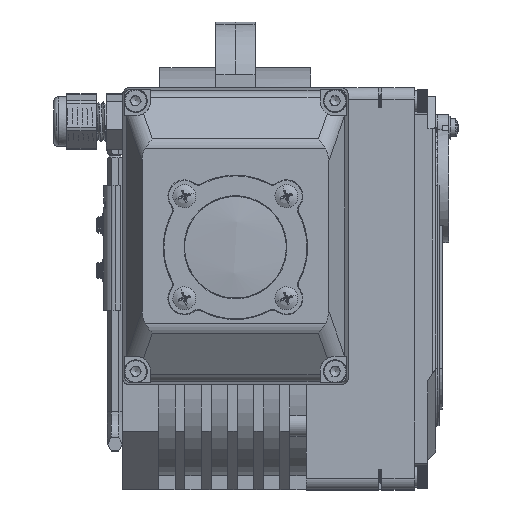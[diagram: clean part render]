
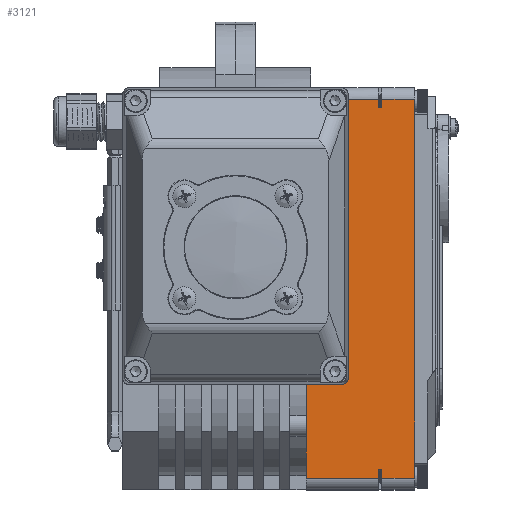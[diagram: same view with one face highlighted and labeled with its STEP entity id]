
A CAD part, top view. The second image highlights one B-rep face of the part: STEP entity #3121.
In plain terms, the highlighted planar face has unit normal (0, 0, 1).
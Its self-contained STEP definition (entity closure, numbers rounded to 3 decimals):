
#3121=ADVANCED_FACE('',(#55410),#55412,.F.);
#55410=FACE_BOUND('',#55411,.T.);
#55411=EDGE_LOOP('',(#94776,#94777,#94778,#94779,#94780,#94781,#94782,#94783,#94784,
#94785,#94786,#94787,#94788,#94789,#94790));
#55412=PLANE('',#55413);
#55413=AXIS2_PLACEMENT_3D('',#55414,#55415,#55416);
#55414=CARTESIAN_POINT('',(4309.12,-1625.512,0.877));
#55415=DIRECTION('',(0.,0.,-1.));
#55416=DIRECTION('',(0.,1.,0.));
#94776=ORIENTED_EDGE('',*,*,#119031,.F.);
#94777=ORIENTED_EDGE('',*,*,#119032,.F.);
#94778=ORIENTED_EDGE('',*,*,#119021,.F.);
#94779=ORIENTED_EDGE('',*,*,#118907,.F.);
#94780=ORIENTED_EDGE('',*,*,#119026,.T.);
#94781=ORIENTED_EDGE('',*,*,#119033,.F.);
#94782=ORIENTED_EDGE('',*,*,#119034,.T.);
#94783=ORIENTED_EDGE('',*,*,#119035,.F.);
#94784=ORIENTED_EDGE('',*,*,#119036,.T.);
#94785=ORIENTED_EDGE('',*,*,#119037,.F.);
#94786=ORIENTED_EDGE('',*,*,#119038,.T.);
#94787=ORIENTED_EDGE('',*,*,#119039,.F.);
#94788=ORIENTED_EDGE('',*,*,#119040,.F.);
#94789=ORIENTED_EDGE('',*,*,#119041,.T.);
#94790=ORIENTED_EDGE('',*,*,#119042,.F.);
#118907=EDGE_CURVE('',#131666,#131668,#131669,.T.);
#119021=EDGE_CURVE('',#131668,#131889,#131892,.T.);
#119026=EDGE_CURVE('',#131666,#131898,#131901,.T.);
#119031=EDGE_CURVE('',#131908,#131909,#131910,.T.);
#119032=EDGE_CURVE('',#131889,#131908,#131911,.T.);
#119033=EDGE_CURVE('',#131912,#131898,#131913,.T.);
#119034=EDGE_CURVE('',#131912,#131914,#131915,.T.);
#119035=EDGE_CURVE('',#131916,#131914,#131917,.T.);
#119036=EDGE_CURVE('',#131916,#131918,#131919,.T.);
#119037=EDGE_CURVE('',#131920,#131918,#131921,.T.);
#119038=EDGE_CURVE('',#131920,#131922,#131923,.T.);
#119039=EDGE_CURVE('',#131924,#131922,#131925,.T.);
#119040=EDGE_CURVE('',#131926,#131924,#131927,.T.);
#119041=EDGE_CURVE('',#131926,#131928,#131929,.T.);
#119042=EDGE_CURVE('',#131909,#131928,#131930,.T.);
#131666=VERTEX_POINT('',#164202);
#131668=VERTEX_POINT('',#164207);
#131669=LINE('',#164208,#164209);
#131889=VERTEX_POINT('',#164713);
#131892=LINE('',#164721,#164722);
#131898=VERTEX_POINT('',#164736);
#131901=LINE('',#164742,#164743);
#131908=VERTEX_POINT('',#164760);
#131909=VERTEX_POINT('',#164761);
#131910=LINE('',#164762,#164763);
#131911=LINE('',#164765,#164766);
#131912=VERTEX_POINT('',#164768);
#131913=LINE('',#164769,#164770);
#131914=VERTEX_POINT('',#164772);
#131915=LINE('',#164773,#164774);
#131916=VERTEX_POINT('',#164776);
#131917=LINE('',#164777,#164778);
#131918=VERTEX_POINT('',#164780);
#131919=LINE('',#164781,#164782);
#131920=VERTEX_POINT('',#164784);
#131921=LINE('',#164785,#164786);
#131922=VERTEX_POINT('',#164788);
#131923=CIRCLE('',#164789,2.);
#131924=VERTEX_POINT('',#164793);
#131925=LINE('',#164794,#164795);
#131926=VERTEX_POINT('',#164797);
#131927=LINE('',#164798,#164799);
#131928=VERTEX_POINT('',#164801);
#131929=LINE('',#164802,#164803);
#131930=LINE('',#164805,#164806);
#164202=CARTESIAN_POINT('',(4309.12,-1510.012,0.877));
#164207=CARTESIAN_POINT('',(4309.12,-1625.512,0.877));
#164208=CARTESIAN_POINT('',(4309.12,-1510.012,0.877));
#164209=VECTOR('',#164210,1.);
#164210=DIRECTION('',(0.,-1.,0.));
#164713=CARTESIAN_POINT('',(4299.12,-1625.512,0.877));
#164721=CARTESIAN_POINT('',(4309.12,-1625.512,0.877));
#164722=VECTOR('',#164723,1.);
#164723=DIRECTION('',(-1.,0.,0.));
#164736=CARTESIAN_POINT('',(4299.12,-1510.012,0.877));
#164742=CARTESIAN_POINT('',(4309.12,-1510.012,0.877));
#164743=VECTOR('',#164744,1.);
#164744=DIRECTION('',(-1.,0.,0.));
#164760=CARTESIAN_POINT('',(4299.12,-1622.912,0.877));
#164761=CARTESIAN_POINT('',(4298.12,-1622.912,0.877));
#164762=CARTESIAN_POINT('',(4299.12,-1622.912,0.877));
#164763=VECTOR('',#164764,1.);
#164764=DIRECTION('',(-1.,0.,0.));
#164765=CARTESIAN_POINT('',(4299.12,-1625.512,0.877));
#164766=VECTOR('',#164767,1.);
#164767=DIRECTION('',(0.,1.,0.));
#164768=CARTESIAN_POINT('',(4299.12,-1512.612,0.877));
#164769=CARTESIAN_POINT('',(4299.12,-1512.612,0.877));
#164770=VECTOR('',#164771,1.);
#164771=DIRECTION('',(0.,1.,0.));
#164772=CARTESIAN_POINT('',(4298.12,-1512.612,0.877));
#164773=CARTESIAN_POINT('',(4299.12,-1512.612,0.877));
#164774=VECTOR('',#164775,1.);
#164775=DIRECTION('',(-1.,0.,0.));
#164776=CARTESIAN_POINT('',(4298.12,-1510.012,0.877));
#164777=CARTESIAN_POINT('',(4298.12,-1510.012,0.877));
#164778=VECTOR('',#164779,1.);
#164779=DIRECTION('',(0.,-1.,0.));
#164780=CARTESIAN_POINT('',(4288.92,-1510.012,0.877));
#164781=CARTESIAN_POINT('',(4298.12,-1510.012,0.877));
#164782=VECTOR('',#164783,1.);
#164783=DIRECTION('',(-1.,0.,0.));
#164784=CARTESIAN_POINT('',(4288.92,-1595.012,0.877));
#164785=CARTESIAN_POINT('',(4288.92,-1595.012,0.877));
#164786=VECTOR('',#164787,1.);
#164787=DIRECTION('',(0.,1.,0.));
#164788=CARTESIAN_POINT('',(4286.92,-1597.012,0.877));
#164789=AXIS2_PLACEMENT_3D('',#164790,#164791,#164792);
#164790=CARTESIAN_POINT('',(4286.92,-1595.012,0.877));
#164791=DIRECTION('',(0.,0.,-1.));
#164792=DIRECTION('',(1.,0.,0.));
#164793=CARTESIAN_POINT('',(4276.12,-1597.012,0.877));
#164794=CARTESIAN_POINT('',(4276.12,-1597.012,0.877));
#164795=VECTOR('',#164796,1.);
#164796=DIRECTION('',(1.,0.,0.));
#164797=CARTESIAN_POINT('',(4276.12,-1625.512,0.877));
#164798=CARTESIAN_POINT('',(4276.12,-1625.512,0.877));
#164799=VECTOR('',#164800,1.);
#164800=DIRECTION('',(0.,1.,0.));
#164801=CARTESIAN_POINT('',(4298.12,-1625.512,0.877));
#164802=CARTESIAN_POINT('',(4276.12,-1625.512,0.877));
#164803=VECTOR('',#164804,1.);
#164804=DIRECTION('',(1.,0.,0.));
#164805=CARTESIAN_POINT('',(4298.12,-1622.912,0.877));
#164806=VECTOR('',#164807,1.);
#164807=DIRECTION('',(0.,-1.,0.));
